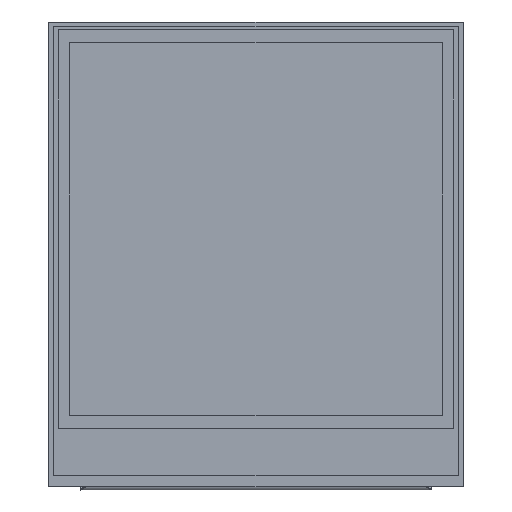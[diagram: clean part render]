
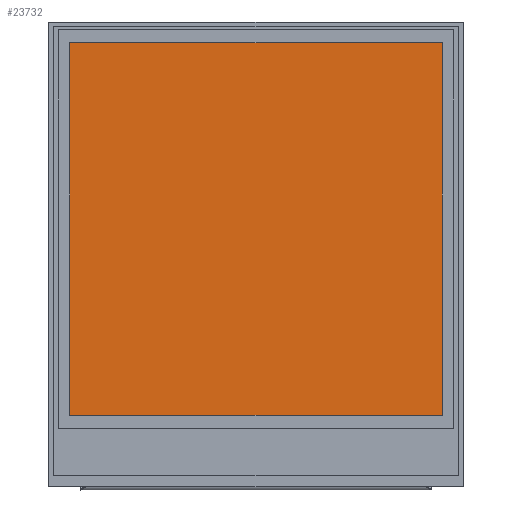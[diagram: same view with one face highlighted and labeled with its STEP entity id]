
A CAD part, top view. The second image highlights one B-rep face of the part: STEP entity #23732.
In plain terms, the highlighted planar face has unit normal (0, 0, 1).
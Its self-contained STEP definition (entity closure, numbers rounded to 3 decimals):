
#1366 = EDGE_CURVE ( 'NONE', #13128, #60688, #37977, .T. ) ;
#4810 = ORIENTED_EDGE ( 'NONE', *, *, #9253, .F. ) ;
#6878 = VERTEX_POINT ( 'NONE', #40102 ) ;
#6968 = CARTESIAN_POINT ( 'NONE',  ( -11.7, 0., 1.5 ) ) ;
#9253 = EDGE_CURVE ( 'NONE', #60688, #6878, #46003, .T. ) ;
#10206 = EDGE_CURVE ( 'NONE', #59369, #13128, #22311, .T. ) ;
#11693 = DIRECTION ( 'NONE',  ( 0., 1., 0. ) ) ;
#12961 = CARTESIAN_POINT ( 'NONE',  ( 0., 0., 1.5 ) ) ;
#13128 = VERTEX_POINT ( 'NONE', #48373 ) ;
#17104 = CARTESIAN_POINT ( 'NONE',  ( 0., -10.125, 1.5 ) ) ;
#17338 = PLANE ( 'NONE',  #52779 ) ;
#18735 = ORIENTED_EDGE ( 'NONE', *, *, #63756, .F. ) ;
#21911 = CARTESIAN_POINT ( 'NONE',  ( 0., 13.275, 1.5 ) ) ;
#22311 = LINE ( 'NONE', #6968, #56086 ) ;
#23732 = ADVANCED_FACE ( 'NONE', ( #28307 ), #17338, .T. ) ;
#27448 = VECTOR ( 'NONE', #39397, 1000. ) ;
#28307 = FACE_OUTER_BOUND ( 'NONE', #51565, .T. ) ;
#30495 = DIRECTION ( 'NONE',  ( 0., 0., 1. ) ) ;
#34659 = CARTESIAN_POINT ( 'NONE',  ( 11.7, 0., 1.5 ) ) ;
#35137 = ORIENTED_EDGE ( 'NONE', *, *, #10206, .F. ) ;
#37977 = LINE ( 'NONE', #21911, #67569 ) ;
#39397 = DIRECTION ( 'NONE',  ( -1., 0., 0. ) ) ;
#40102 = CARTESIAN_POINT ( 'NONE',  ( 11.7, -10.125, 1.5 ) ) ;
#46003 = LINE ( 'NONE', #34659, #46140 ) ;
#46140 = VECTOR ( 'NONE', #71731, 1000. ) ;
#47031 = CARTESIAN_POINT ( 'NONE',  ( 11.7, 13.275, 1.5 ) ) ;
#48373 = CARTESIAN_POINT ( 'NONE',  ( -11.7, 13.275, 1.5 ) ) ;
#48738 = ORIENTED_EDGE ( 'NONE', *, *, #1366, .F. ) ;
#49253 = CARTESIAN_POINT ( 'NONE',  ( -11.7, -10.125, 1.5 ) ) ;
#50408 = LINE ( 'NONE', #17104, #27448 ) ;
#51565 = EDGE_LOOP ( 'NONE', ( #35137, #18735, #4810, #48738 ) ) ;
#52779 = AXIS2_PLACEMENT_3D ( 'NONE', #12961, #30495, #57217 ) ;
#55179 = DIRECTION ( 'NONE',  ( 1., 0., 0. ) ) ;
#56086 = VECTOR ( 'NONE', #11693, 1000. ) ;
#57217 = DIRECTION ( 'NONE',  ( 1., 0., 0. ) ) ;
#59369 = VERTEX_POINT ( 'NONE', #49253 ) ;
#60688 = VERTEX_POINT ( 'NONE', #47031 ) ;
#63756 = EDGE_CURVE ( 'NONE', #6878, #59369, #50408, .T. ) ;
#67569 = VECTOR ( 'NONE', #55179, 1000. ) ;
#71731 = DIRECTION ( 'NONE',  ( 0., -1., 0. ) ) ;
